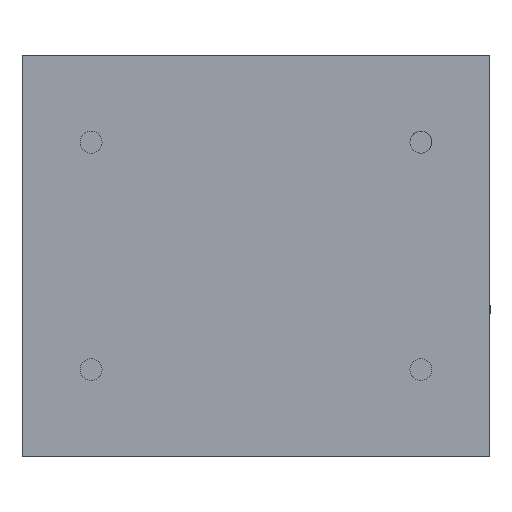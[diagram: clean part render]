
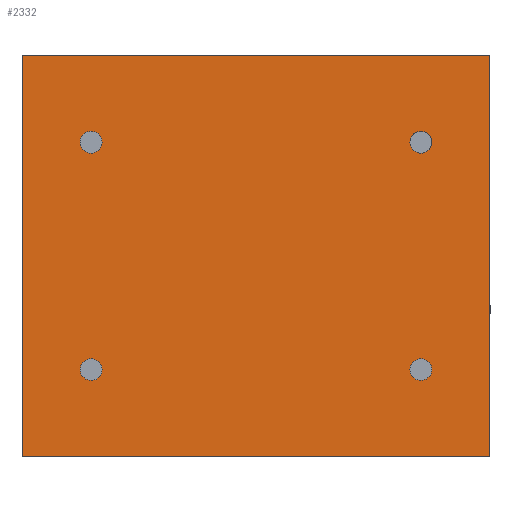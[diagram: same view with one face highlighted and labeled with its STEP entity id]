
A CAD part, top view. The second image highlights one B-rep face of the part: STEP entity #2332.
In plain terms, the highlighted free-form (B-spline) face has degree [1, 1] with [2, 2] control points.
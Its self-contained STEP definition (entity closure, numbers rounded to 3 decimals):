
#131=CARTESIAN_POINT('',(-105.,180.,25.));
#132=VERTEX_POINT('',#131);
#147=CARTESIAN_POINT('',(-105.,0.,25.));
#148=VERTEX_POINT('',#147);
#155=CARTESIAN_POINT('',(-105.,0.,25.));
#156=DIRECTION('',(0.0,1.0,0.0));
#157=VECTOR('',#156,180.);
#158=LINE('',#155,#157);
#159=EDGE_CURVE('',#148,#132,#158,.T.);
#916=CARTESIAN_POINT('',(-74.,145.927,25.));
#917=VERTEX_POINT('',#916);
#918=CARTESIAN_POINT('',(-74.,141.,25.));
#919=DIRECTION('',(0.0,0.0,-1.0));
#920=DIRECTION('',(0.0,-1.0,0.0));
#921=AXIS2_PLACEMENT_3D('',#918,#919,#920);
#922=CIRCLE('',#921,4.926);
#923=EDGE_CURVE('',#917,#917,#922,.T.);
#944=CARTESIAN_POINT('',(-74.,43.926,25.));
#945=VERTEX_POINT('',#944);
#946=CARTESIAN_POINT('',(-74.,39.,25.));
#947=DIRECTION('',(0.0,0.0,-1.0));
#948=DIRECTION('',(0.0,-1.0,0.0));
#949=AXIS2_PLACEMENT_3D('',#946,#947,#948);
#950=CIRCLE('',#949,4.926);
#951=EDGE_CURVE('',#945,#945,#950,.T.);
#1931=CARTESIAN_POINT('',(105.,180.,25.));
#1932=VERTEX_POINT('',#1931);
#1933=CARTESIAN_POINT('',(-105.,180.,25.));
#1934=DIRECTION('',(1.0,0.0,0.0));
#1935=VECTOR('',#1934,210.);
#1936=LINE('',#1933,#1935);
#1937=EDGE_CURVE('',#132,#1932,#1936,.T.);
#2270=CARTESIAN_POINT('',(105.,0.,25.));
#2271=VERTEX_POINT('',#2270);
#2272=CARTESIAN_POINT('',(105.,0.,25.));
#2273=DIRECTION('',(0.0,1.0,0.0));
#2274=VECTOR('',#2273,180.);
#2275=LINE('',#2272,#2274);
#2276=EDGE_CURVE('',#2271,#1932,#2275,.T.);
#2288=CARTESIAN_POINT('',(-105.,180.,25.));
#2289=CARTESIAN_POINT('',(105.,180.,25.));
#2290=CARTESIAN_POINT('',(-105.,0.,25.));
#2291=CARTESIAN_POINT('',(105.,0.,25.));
#2292=B_SPLINE_SURFACE_WITH_KNOTS('',1,1,((#2288,#2290),(#2289,#2291)),.UNSPECIFIED.,.F.,.F.,.U.,(2,2),(2,2),(0.0,210.),(0.0,180.),.UNSPECIFIED.);
#2293=CARTESIAN_POINT('',(-105.,0.,25.));
#2294=DIRECTION('',(1.0,0.0,0.0));
#2295=VECTOR('',#2294,210.);
#2296=LINE('',#2293,#2295);
#2297=EDGE_CURVE('',#148,#2271,#2296,.T.);
#2298=ORIENTED_EDGE('',*,*,#2297,.T.);
#2299=ORIENTED_EDGE('',*,*,#2276,.T.);
#2300=ORIENTED_EDGE('',*,*,#1937,.F.);
#2301=ORIENTED_EDGE('',*,*,#159,.F.);
#2302=EDGE_LOOP('',(#2298,#2299,#2300,#2301));
#2303=FACE_OUTER_BOUND('',#2302,.T.);
#2304=ORIENTED_EDGE('',*,*,#951,.T.);
#2305=EDGE_LOOP('',(#2304));
#2306=FACE_BOUND('',#2305,.T.);
#2307=ORIENTED_EDGE('',*,*,#923,.T.);
#2308=EDGE_LOOP('',(#2307));
#2309=FACE_BOUND('',#2308,.T.);
#2310=CARTESIAN_POINT('',(74.,145.927,25.));
#2311=VERTEX_POINT('',#2310);
#2312=CARTESIAN_POINT('',(74.,141.,25.));
#2313=DIRECTION('',(0.0,0.0,1.0));
#2314=DIRECTION('',(0.0,-1.0,0.0));
#2315=AXIS2_PLACEMENT_3D('',#2312,#2313,#2314);
#2316=CIRCLE('',#2315,4.926);
#2317=EDGE_CURVE('',#2311,#2311,#2316,.T.);
#2318=ORIENTED_EDGE('',*,*,#2317,.F.);
#2319=EDGE_LOOP('',(#2318));
#2320=FACE_BOUND('',#2319,.T.);
#2321=CARTESIAN_POINT('',(74.,43.926,25.));
#2322=VERTEX_POINT('',#2321);
#2323=CARTESIAN_POINT('',(74.,39.,25.));
#2324=DIRECTION('',(0.0,0.0,1.0));
#2325=DIRECTION('',(0.0,-1.0,0.0));
#2326=AXIS2_PLACEMENT_3D('',#2323,#2324,#2325);
#2327=CIRCLE('',#2326,4.926);
#2328=EDGE_CURVE('',#2322,#2322,#2327,.T.);
#2329=ORIENTED_EDGE('',*,*,#2328,.F.);
#2330=EDGE_LOOP('',(#2329));
#2331=FACE_BOUND('',#2330,.T.);
#2332=ADVANCED_FACE('',(#2303,#2306,#2309,#2320,#2331),#2292,.F.);
